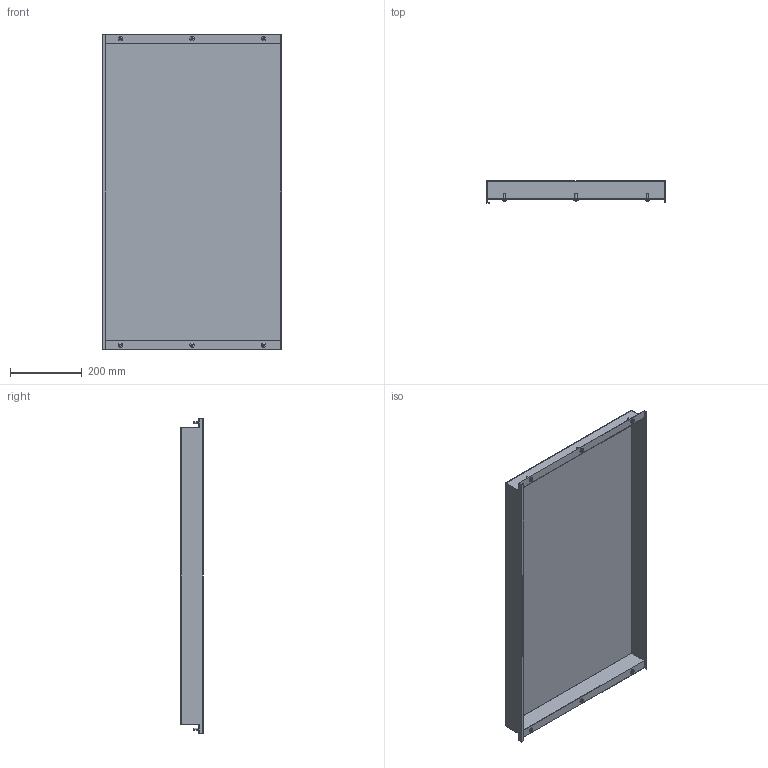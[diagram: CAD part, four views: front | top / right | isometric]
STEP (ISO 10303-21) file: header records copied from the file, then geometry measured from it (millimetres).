
FILE_DESCRIPTION (( 'STEP AP214' ), '1' );
FILE_NAME ('FO-00-PVSU-050-100 Ïëàñòðîí âíóòðåííèé óãëóáëåííûé 500õ1000õ50.STEP', '2025-09-30T08:28:47', ( '' ), ( '' ), 'SwSTEP 2.0', 'SolidWorks 2023', '' );
FILE_SCHEMA (( 'AUTOMOTIVE_DESIGN' ));
Length unit declared in the file: millimetre
Products named in the file (3): FO-00-PVSU-050-100 Пластрон внутренний углубленный 500х1000х50; Винты М6х16 50-80
Assembly tree (3 placements, depth 2):
  FO-00-PVSU-050-100 Пластрон внутренний углубленный 500х1000х50
    FO-00-PVSU-050-100 Пластрон внутренний углубленный 500х1000х50
    Винты М6х16 50-80  x2
Bounding box: 498 x 62.5 x 879 mm (x, y, z)
Volume: 835411.5 mm3; surface area: 1194784.2 mm2
Topology: 7 solids, 7 shells, 214 faces, 558 edges, 364 vertices
Faces by surface type: cylinder 132, plane 52, cone 18, bspline 12
Entity records: 4464 total; most frequent: CARTESIAN_POINT 1022, ORIENTED_EDGE 708, DIRECTION 692, EDGE_CURVE 354, AXIS2_PLACEMENT_3D 256, VERTEX_POINT 232, LINE 180, VECTOR 180
